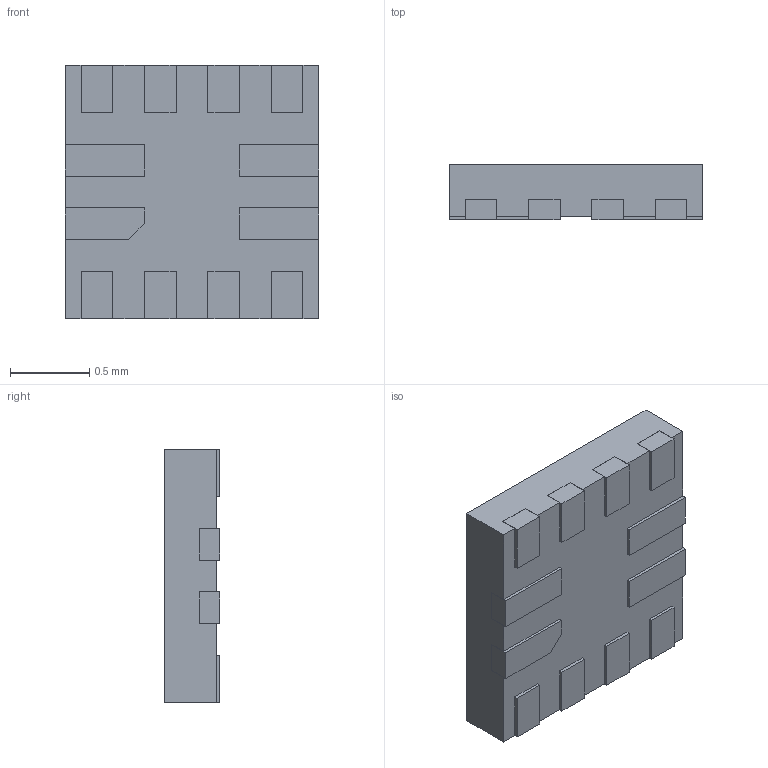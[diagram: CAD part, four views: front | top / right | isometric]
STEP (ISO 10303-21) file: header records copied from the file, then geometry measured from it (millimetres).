
FILE_DESCRIPTION (( 'STEP AP214' ), '1' );
FILE_NAME ('PTN5150AHXMP.STEP', '2025-04-15T16:04:05', ( '' ), ( '' ), 'SwSTEP 2.0', 'SolidWorks 2020', '' );
FILE_SCHEMA (( 'AUTOMOTIVE_DESIGN' ));
Length unit declared in the file: millimetre
Products named in the file (1): PTN5150AHXMP
Bounding box: 1.6 x 0.35 x 1.6 mm (x, y, z)
Volume: 0.9 mm3; surface area: 7.5 mm2
Topology: 1 solids, 1 shells, 82 faces, 237 edges, 158 vertices
Faces by surface type: plane 80, cylinder 2
Entity records: 2778 total; most frequent: CARTESIAN_POINT 478, ORIENTED_EDGE 474, DIRECTION 407, EDGE_CURVE 237, LINE 233, VECTOR 233, VERTEX_POINT 158, AXIS2_PLACEMENT_3D 87
